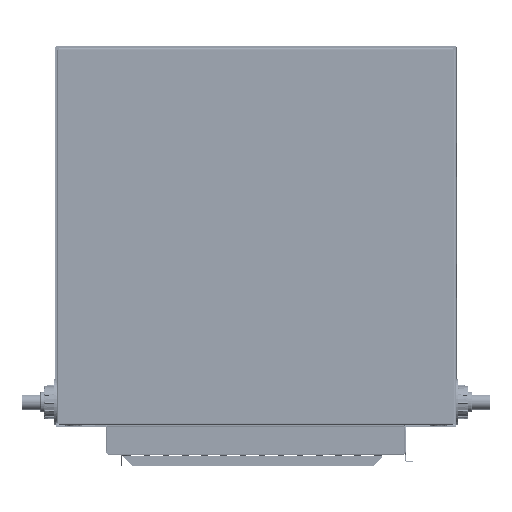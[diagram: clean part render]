
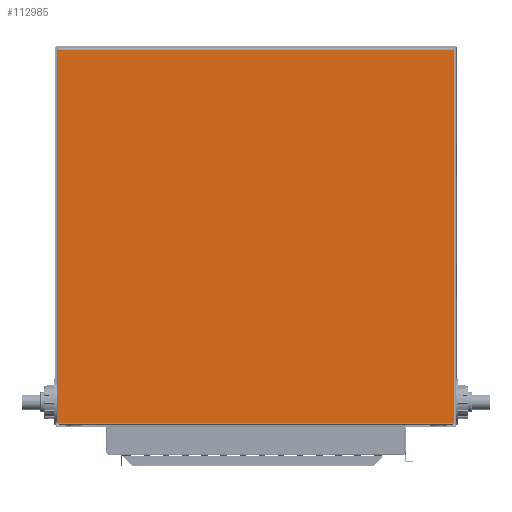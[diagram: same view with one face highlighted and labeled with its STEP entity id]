
A CAD part, front view. The second image highlights one B-rep face of the part: STEP entity #112985.
In plain terms, the highlighted planar face has unit normal (0, -1, 0) as drawn and (0, 0, -1) by its records, which use the part's own axes.
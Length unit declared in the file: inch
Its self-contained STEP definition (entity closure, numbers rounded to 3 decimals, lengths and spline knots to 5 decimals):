
#671 = CARTESIAN_POINT ( 'NONE',  ( 18.31615, 10.65779, 0. ) ) ;
#898 = VECTOR ( 'NONE', #75049, 39.37008 ) ;
#904 = VECTOR ( 'NONE', #114344, 39.37008 ) ;
#7846 = CARTESIAN_POINT ( 'NONE',  ( -8.83741, -15.02406, 0. ) ) ;
#8599 = CARTESIAN_POINT ( 'NONE',  ( -8.83741, 11.59503, 0. ) ) ;
#9736 = AXIS2_PLACEMENT_3D ( 'NONE', #98788, #52968, #117240 ) ;
#10882 = ORIENTED_EDGE ( 'NONE', *, *, #35806, .T. ) ;
#11864 = CARTESIAN_POINT ( 'NONE',  ( 18.31615, 11.59503, 0. ) ) ;
#12894 = LINE ( 'NONE', #671, #108153 ) ;
#13547 = VERTEX_POINT ( 'NONE', #80471 ) ;
#14264 = VECTOR ( 'NONE', #37860, 39.37008 ) ;
#15174 = EDGE_CURVE ( 'NONE', #103602, #46431, #110765, .T. ) ;
#15473 = CARTESIAN_POINT ( 'NONE',  ( 18.31615, 10.6295, 0. ) ) ;
#16979 = LINE ( 'NONE', #88841, #109288 ) ;
#17084 = CARTESIAN_POINT ( 'NONE',  ( 18.34445, 11.59503, 0. ) ) ;
#17359 = ORIENTED_EDGE ( 'NONE', *, *, #34418, .T. ) ;
#18045 = DIRECTION ( 'NONE',  ( 0., 1., 0. ) ) ;
#18216 = EDGE_CURVE ( 'NONE', #46431, #72701, #71471, .T. ) ;
#19932 = CARTESIAN_POINT ( 'NONE',  ( 18.31615, -15.05236, 0. ) ) ;
#20835 = EDGE_CURVE ( 'NONE', #72701, #24485, #97233, .T. ) ;
#21391 = EDGE_CURVE ( 'NONE', #24485, #65749, #79845, .T. ) ;
#22149 = VECTOR ( 'NONE', #69546, 39.37008 ) ;
#23627 = VECTOR ( 'NONE', #18045, 39.37008 ) ;
#23654 = LINE ( 'NONE', #17084, #39573 ) ;
#23824 = EDGE_CURVE ( 'NONE', #65749, #13547, #89488, .T. ) ;
#24485 = VERTEX_POINT ( 'NONE', #112780 ) ;
#25590 = LINE ( 'NONE', #40606, #904 ) ;
#26120 = EDGE_CURVE ( 'NONE', #13547, #54376, #72957, .T. ) ;
#28417 = EDGE_CURVE ( 'NONE', #54376, #106836, #12894, .T. ) ;
#28521 = CARTESIAN_POINT ( 'NONE',  ( 18.31615, -15.02406, 0. ) ) ;
#29361 = VERTEX_POINT ( 'NONE', #68463 ) ;
#29458 = EDGE_CURVE ( 'NONE', #106836, #98036, #16979, .T. ) ;
#31287 = ORIENTED_EDGE ( 'NONE', *, *, #36376, .T. ) ;
#31757 = EDGE_CURVE ( 'NONE', #98036, #115871, #25590, .T. ) ;
#34418 = EDGE_CURVE ( 'NONE', #115871, #104593, #23654, .T. ) ;
#35169 = DIRECTION ( 'NONE',  ( 0., -1., 0. ) ) ;
#35806 = EDGE_CURVE ( 'NONE', #104593, #29361, #85106, .T. ) ;
#36376 = EDGE_CURVE ( 'NONE', #29361, #103602, #107916, .T. ) ;
#37197 = VECTOR ( 'NONE', #57308, 39.37008 ) ;
#37860 = DIRECTION ( 'NONE',  ( -1., 0., 0. ) ) ;
#39573 = VECTOR ( 'NONE', #35169, 39.37008 ) ;
#39787 = DIRECTION ( 'NONE',  ( 0., 1., 0. ) ) ;
#40606 = CARTESIAN_POINT ( 'NONE',  ( 18.31615, 10.6295, 0. ) ) ;
#44861 = ORIENTED_EDGE ( 'NONE', *, *, #23824, .T. ) ;
#46431 = VERTEX_POINT ( 'NONE', #48078 ) ;
#48078 = CARTESIAN_POINT ( 'NONE',  ( -8.83741, -15.05236, 0. ) ) ;
#48918 = CARTESIAN_POINT ( 'NONE',  ( 18.31615, -15.02406, 0. ) ) ;
#52163 = DIRECTION ( 'NONE',  ( 0., -1., 0. ) ) ;
#52659 = ORIENTED_EDGE ( 'NONE', *, *, #15174, .T. ) ;
#52755 = DIRECTION ( 'NONE',  ( 1., 0., 0. ) ) ;
#52968 = DIRECTION ( 'NONE',  ( 0., 0., -1. ) ) ;
#54376 = VERTEX_POINT ( 'NONE', #86641 ) ;
#55358 = VECTOR ( 'NONE', #39787, 39.37008 ) ;
#57308 = DIRECTION ( 'NONE',  ( 0., -1., 0. ) ) ;
#57880 = DIRECTION ( 'NONE',  ( -1., 0., 0. ) ) ;
#60330 = CARTESIAN_POINT ( 'NONE',  ( 18.34445, 10.6295, 0. ) ) ;
#65104 = VECTOR ( 'NONE', #52755, 39.37008 ) ;
#65749 = VERTEX_POINT ( 'NONE', #76971 ) ;
#66363 = CARTESIAN_POINT ( 'NONE',  ( 18.34445, -15.02406, 0. ) ) ;
#66413 = CARTESIAN_POINT ( 'NONE',  ( 18.31615, 10.65779, 0. ) ) ;
#67451 = CARTESIAN_POINT ( 'NONE',  ( -8.8657, 11.59503, 0. ) ) ;
#68463 = CARTESIAN_POINT ( 'NONE',  ( 18.31615, -15.02406, 0. ) ) ;
#69546 = DIRECTION ( 'NONE',  ( 0., 1., 0. ) ) ;
#70708 = ORIENTED_EDGE ( 'NONE', *, *, #18216, .T. ) ;
#71471 = LINE ( 'NONE', #112421, #22149 ) ;
#72701 = VERTEX_POINT ( 'NONE', #7846 ) ;
#72957 = LINE ( 'NONE', #8599, #23627 ) ;
#74647 = CARTESIAN_POINT ( 'NONE',  ( 18.31615, -15.05236, 0. ) ) ;
#75049 = DIRECTION ( 'NONE',  ( -1., 0., 0. ) ) ;
#76971 = CARTESIAN_POINT ( 'NONE',  ( -8.8657, 10.6295, 0. ) ) ;
#79030 = ORIENTED_EDGE ( 'NONE', *, *, #29458, .T. ) ;
#79845 = LINE ( 'NONE', #67451, #55358 ) ;
#80471 = CARTESIAN_POINT ( 'NONE',  ( -8.83741, 10.6295, 0. ) ) ;
#84089 = DIRECTION ( 'NONE',  ( 1., 0., 0. ) ) ;
#84149 = ORIENTED_EDGE ( 'NONE', *, *, #31757, .T. ) ;
#85106 = LINE ( 'NONE', #28521, #14264 ) ;
#86641 = CARTESIAN_POINT ( 'NONE',  ( -8.83741, 10.65779, 0. ) ) ;
#88841 = CARTESIAN_POINT ( 'NONE',  ( 18.31615, 11.59503, 0. ) ) ;
#89133 = ORIENTED_EDGE ( 'NONE', *, *, #20835, .T. ) ;
#89488 = LINE ( 'NONE', #15473, #65104 ) ;
#90467 = EDGE_LOOP ( 'NONE', ( #10882, #31287, #52659, #70708, #89133, #108634, #44861, #101012, #114315, #79030, #84149, #17359 ) ) ;
#94402 = VECTOR ( 'NONE', #57880, 39.37008 ) ;
#97233 = LINE ( 'NONE', #48918, #94402 ) ;
#98036 = VERTEX_POINT ( 'NONE', #100739 ) ;
#98788 = CARTESIAN_POINT ( 'NONE',  ( 18.31615, 11.59503, 0. ) ) ;
#100739 = CARTESIAN_POINT ( 'NONE',  ( 18.31615, 10.6295, 0. ) ) ;
#101012 = ORIENTED_EDGE ( 'NONE', *, *, #26120, .T. ) ;
#103602 = VERTEX_POINT ( 'NONE', #19932 ) ;
#104593 = VERTEX_POINT ( 'NONE', #66363 ) ;
#106836 = VERTEX_POINT ( 'NONE', #66413 ) ;
#107678 = PLANE ( 'NONE',  #9736 ) ;
#107916 = LINE ( 'NONE', #11864, #37197 ) ;
#108153 = VECTOR ( 'NONE', #84089, 39.37008 ) ;
#108634 = ORIENTED_EDGE ( 'NONE', *, *, #21391, .T. ) ;
#109288 = VECTOR ( 'NONE', #52163, 39.37008 ) ;
#109343 = FACE_OUTER_BOUND ( 'NONE', #90467, .T. ) ;
#110765 = LINE ( 'NONE', #74647, #898 ) ;
#112421 = CARTESIAN_POINT ( 'NONE',  ( -8.83741, 11.59503, 0. ) ) ;
#112780 = CARTESIAN_POINT ( 'NONE',  ( -8.8657, -15.02406, 0. ) ) ;
#112985 = ADVANCED_FACE ( 'NONE', ( #109343 ), #107678, .T. ) ;
#114315 = ORIENTED_EDGE ( 'NONE', *, *, #28417, .T. ) ;
#114344 = DIRECTION ( 'NONE',  ( 1., 0., 0. ) ) ;
#115871 = VERTEX_POINT ( 'NONE', #60330 ) ;
#117240 = DIRECTION ( 'NONE',  ( -1., 0., 0. ) ) ;
